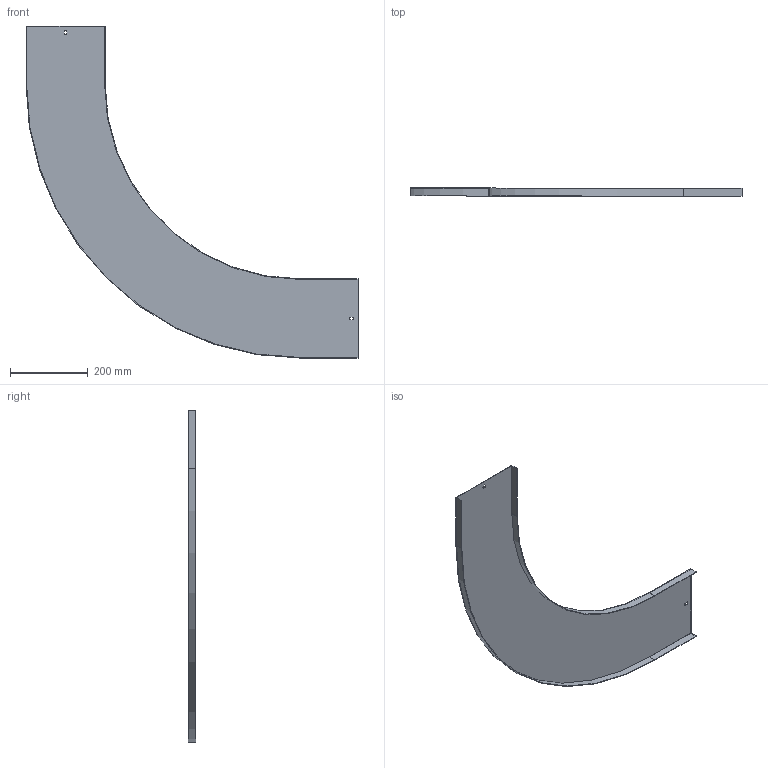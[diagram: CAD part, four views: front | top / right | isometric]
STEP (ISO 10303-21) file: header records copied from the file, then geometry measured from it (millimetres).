
FILE_DESCRIPTION (( 'STEP AP214' ), '1' );
FILE_NAME ('10N5R200.step', '2025-02-21T10:53:11', ( '' ), ( '' ), 'SwSTEP 2.0', 'SolidWorks 2023', '' );
FILE_SCHEMA (( 'AUTOMOTIVE_DESIGN' ));
Length unit declared in the file: millimetre
Products named in the file (1): 10N5R200
Bounding box: 851.5 x 20 x 851.5 mm (x, y, z)
Volume: 447116.5 mm3; surface area: 600695.8 mm2
Topology: 1 solids, 1 shells, 26 faces, 72 edges, 48 vertices
Faces by surface type: plane 22, cylinder 4
Entity records: 855 total; most frequent: CARTESIAN_POINT 147, ORIENTED_EDGE 144, DIRECTION 134, EDGE_CURVE 72, LINE 64, VECTOR 64, VERTEX_POINT 48, AXIS2_PLACEMENT_3D 35
